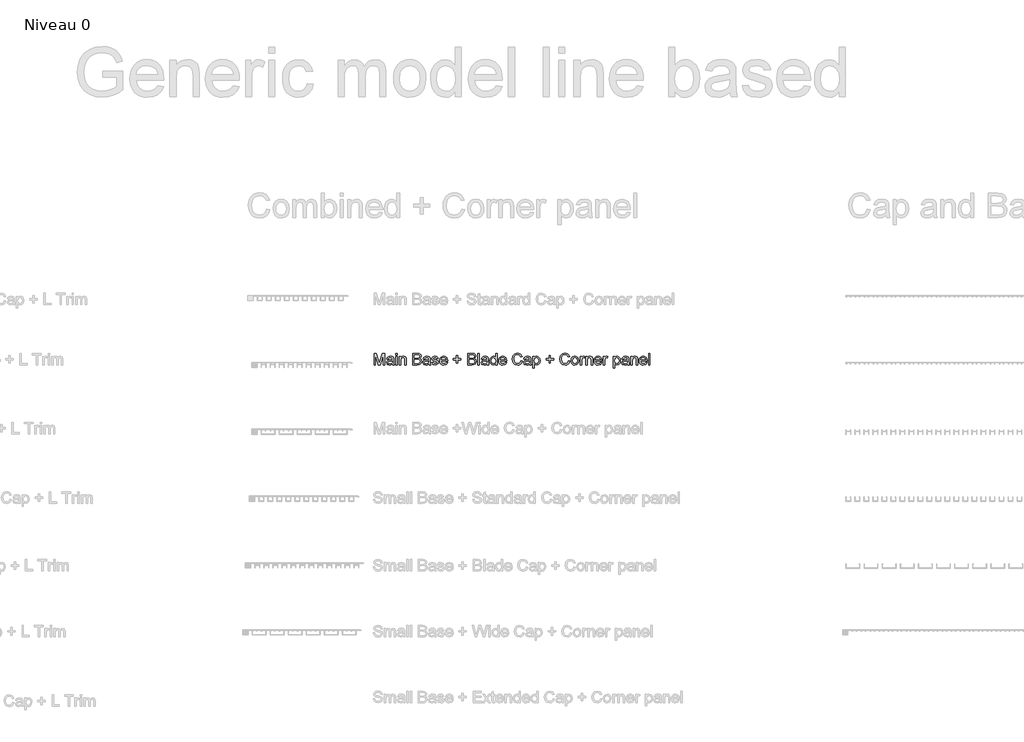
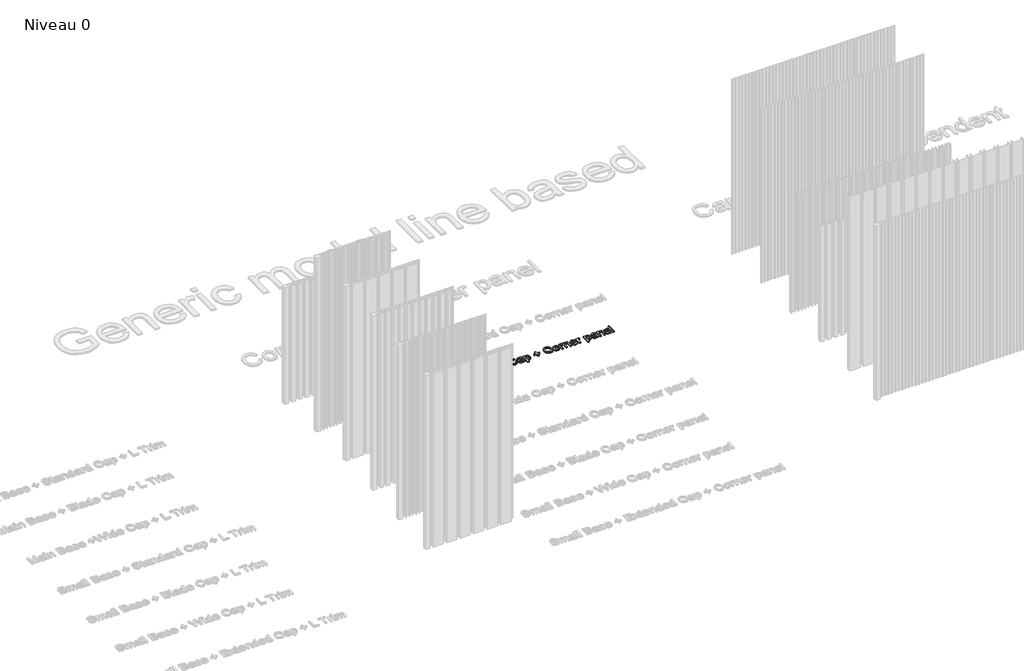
# One storey, part 19 of 25: 1 proxy.
"""IFC4 building model written with IfcOpenShell, lengths in millimetres."""

from ifc_helpers import new_model, si_unit, origin, origin_with_axes, place, context, project, spatial, polyline, outline, extrude, element, save

model = new_model("IFC4")

# Units and contexts
model_context = context("Model", 3, world=origin())
ifc_project = project(units=[si_unit("LENGTHUNIT", "METRE", prefix="MILLI")], contexts=[model_context])

# Site, building, storey
site = spatial("IfcSite", under=ifc_project)
building = spatial("IfcBuilding", under=site)
storey = spatial("IfcBuildingStorey", under=building, Name="Niveau 0", Elevation=0.0)

# Proxy
placement = place(None, origin())
element("IfcBuildingElementProxy", 1, Name="70mm Arial", ObjectType="70mm Arial", at=placement, inside=storey, context=model_context, shape_type="SweptSolid", body=[
    extrude(outline(polyline([(3886.1765083, 4146.6240116), (3886.1765083, 4216.9434287), (3901.3013634, 4216.9434287), (3915.688002, 4167.3799137), (3918.5893646, 4157.0277144), (3921.7310769, 4168.2383051), (3935.8773659, 4216.9434287), (3951.0022209, 4216.9434287), (3951.0022209, 4146.6240116), (3942.2122938, 4146.6240116), (3942.2122938, 4208.1535015), (3924.5466004, 4146.6240116), (3912.6321289, 4146.6240116), (3894.9664354, 4208.1535015), (3894.9664354, 4146.6240116), (3886.1765083, 4146.6240116)])), origin_with_axes(), (0.0, 0.0, 1.0), 10.0),
    extrude(outline(polyline([(3998.2480793, 4153.2164569), (3989.7242535, 4147.2592211), (3980.3077007, 4145.5252707), (3967.5434217, 4149.6970525), (3963.0883708, 4160.3582727), (3964.7708178, 4167.3112424), (3969.1915331, 4172.3585834), (3975.3461988, 4175.2427782), (3982.951546, 4176.5647009), (3998.1965758, 4179.5862383), (3998.2480793, 4181.5433705), (3995.8274158, 4188.0328089), (3986.110426, 4190.5736473), (3977.2174919, 4188.8826164), (3972.9770388, 4182.882461), (3964.1871117, 4183.9812019), (3967.9897852, 4192.5651151), (3975.6466358, 4197.5952883), (3987.2435026, 4199.3635744), (3997.8961389, 4197.8013022), (4003.913462, 4193.8784538), (4006.6088108, 4187.9126342), (4007.0380065, 4180.2214479), (4007.0380065, 4169.2855425), (4007.4843699, 4154.0147608), (4009.2354882, 4146.6240116), (4000.4455611, 4146.6240116), (3998.2480793, 4153.2164569)]), holes=[polyline([(3998.2480793, 4170.7963112), (3984.0674547, 4168.1009624), (3976.5050271, 4166.6760328), (3973.0800458, 4164.3583763), (3971.8782979, 4160.9763145), (3974.4963914, 4156.2208265), (3982.1789938, 4154.3151978), (3991.0719279, 4156.4182566), (3996.8059819, 4161.5085171), (3998.1965758, 4168.3069764), (3998.2480793, 4170.7963112)])]), origin_with_axes(), (0.0, 0.0, 1.0), 10.0),
    extrude(outline(polyline([(4019.1241563, 4146.6240116), (4019.1241563, 4198.2648335), (4027.9140834, 4198.2648335), (4027.9140834, 4146.6240116), (4019.1241563, 4146.6240116)])), origin_with_axes(), (0.0, 0.0, 1.0), 10.0),
    extrude(outline(polyline([(4019.1241563, 4208.1535015), (4019.1241563, 4216.9434287), (4027.9140834, 4216.9434287), (4027.9140834, 4208.1535015), (4019.1241563, 4208.1535015)])), origin_with_axes(), (0.0, 0.0, 1.0), 10.0),
    extrude(outline(polyline([(4041.0989741, 4146.6240116), (4041.0989741, 4198.2648335), (4049.8889013, 4198.2648335), (4049.8889013, 4191.0543464), (4056.6101053, 4197.2862674), (4065.7863085, 4199.3635744), (4074.0869526, 4197.6897113), (4079.7523353, 4193.2947477), (4082.3875967, 4186.8310611), (4082.851128, 4178.332987), (4082.851128, 4146.6240116), (4074.0612009, 4146.6240116), (4074.0612009, 4177.148407), (4073.0482991, 4184.9254324), (4069.4688073, 4189.0371268), (4063.4343163, 4190.5736473), (4053.8975887, 4187.1229141), (4049.8889013, 4174.0238626), (4049.8889013, 4146.6240116), (4041.0989741, 4146.6240116)])), origin_with_axes(), (0.0, 0.0, 1.0), 10.0),
    extrude(outline(polyline([(4123.504541, 4146.6240116), (4123.504541, 4216.9434287), (4150.3378538, 4216.9434287), (4163.4798249, 4214.8747056), (4171.2396825, 4208.5140259), (4174.0466221, 4199.5180848), (4171.6860459, 4191.3032799), (4164.5528141, 4185.0799428), (4173.2139825, 4178.5218331), (4176.2441039, 4167.5859277), (4174.1753808, 4158.1350392), (4169.0507846, 4151.4052512), (4161.4025179, 4147.8343433), (4150.1318398, 4146.6240116), (4123.504541, 4146.6240116)]), holes=[polyline([(4132.2944682, 4188.3761655), (4148.3463859, 4188.3761655), (4157.7200191, 4189.1315498), (4163.3596501, 4192.3848529), (4165.2566949, 4198.1103231), (4163.4884088, 4203.8443771), (4158.4239, 4207.2350228), (4147.1274702, 4208.1535015), (4132.2944682, 4208.1535015), (4132.2944682, 4188.3761655)]), polyline([(4132.2944682, 4155.4139387), (4150.3206859, 4155.4139387), (4156.84446, 4155.7572952), (4162.3639162, 4157.6715079), (4166.0206632, 4161.5771884), (4167.4541767, 4167.5000885), (4165.7717297, 4174.3328834), (4160.3209448, 4178.4102422), (4149.4622946, 4179.5862383), (4132.2944682, 4179.5862383), (4132.2944682, 4155.4139387)])]), origin_with_axes(), (0.0, 0.0, 1.0), 10.0),
    extrude(outline(polyline([(4220.1937396, 4153.2164569), (4211.6699137, 4147.2592211), (4202.2533609, 4145.5252707), (4189.489082, 4149.6970525), (4185.034031, 4160.3582727), (4186.716478, 4167.3112424), (4191.1371933, 4172.3585834), (4197.2918591, 4175.2427782), (4204.8972062, 4176.5647009), (4220.1422361, 4179.5862383), (4220.1937396, 4181.5433705), (4217.773076, 4188.0328089), (4208.0560863, 4190.5736473), (4199.1631522, 4188.8826164), (4194.922699, 4182.882461), (4186.1327719, 4183.9812019), (4189.9354454, 4192.5651151), (4197.592296, 4197.5952883), (4209.1891628, 4199.3635744), (4219.8417991, 4197.8013022), (4225.8591223, 4193.8784538), (4228.554471, 4187.9126342), (4228.9836667, 4180.2214479), (4228.9836667, 4169.2855425), (4229.4300302, 4154.0147608), (4231.1811485, 4146.6240116), (4222.3912213, 4146.6240116), (4220.1937396, 4153.2164569)]), holes=[polyline([(4220.1937396, 4170.7963112), (4206.0131149, 4168.1009624), (4198.4506874, 4166.6760328), (4195.025706, 4164.3583763), (4193.8239581, 4160.9763145), (4196.4420517, 4156.2208265), (4204.124654, 4154.3151978), (4213.0175881, 4156.4182566), (4218.7516421, 4161.5085171), (4220.1422361, 4168.3069764), (4220.1937396, 4170.7963112)])]), origin_with_axes(), (0.0, 0.0, 1.0), 10.0),
    extrude(outline(polyline([(4237.7735938, 4162.0063841), (4246.563521, 4163.1051249), (4250.6322958, 4156.5813509), (4259.9544256, 4154.3151978), (4268.916031, 4156.3925048), (4271.8345615, 4161.2681675), (4268.8988632, 4165.2167676), (4259.8514186, 4167.7232703), (4246.6150244, 4172.0238108), (4240.8380508, 4177.0454), (4238.8723347, 4184.1357123), (4240.4517748, 4190.6852381), (4244.7608992, 4195.6896595), (4250.3490267, 4198.2905852), (4257.9114542, 4199.3635744), (4268.6070101, 4197.6382078), (4275.4054694, 4192.968559), (4278.4270068, 4185.0799428), (4269.6370797, 4183.9812019), (4266.3322731, 4188.8311129), (4258.5981673, 4190.5736473), (4250.1859323, 4188.9083681), (4247.6622619, 4185.0284393), (4248.7094993, 4182.4704332), (4251.9885541, 4180.5304688), (4259.5595656, 4178.6591757), (4272.4611872, 4174.5217295), (4278.4527586, 4169.8349129), (4280.6244886, 4162.1952301), (4278.0750664, 4153.7829952), (4270.7186528, 4147.6798329), (4259.8342508, 4145.5252707), (4244.5033818, 4149.6798847), (4237.7735938, 4162.0063841)])), origin_with_axes(), (0.0, 0.0, 1.0), 10.0),
    extrude(outline(polyline([(4326.6685991, 4162.0063841), (4335.286848, 4160.9076432), (4327.2265535, 4149.5597099), (4312.2132893, 4145.5252707), (4301.8997175, 4147.2656591), (4293.9638898, 4152.4868243), (4288.9036729, 4160.8497018), (4287.216934, 4172.0152269), (4288.9208408, 4183.5562982), (4294.0325611, 4192.1874229), (4301.8610899, 4197.5695365), (4311.7154223, 4199.3635744), (4321.2628798, 4197.5738285), (4328.8918327, 4192.2045908), (4333.8941081, 4183.5906339), (4335.5615332, 4172.0667304), (4335.5100298, 4169.6975703), (4296.0068611, 4169.6975703), (4301.062786, 4158.2809657), (4312.3849675, 4154.3151978), (4321.0032164, 4156.1521552), (4326.6685991, 4162.0063841)]), holes=[polyline([(4296.0068611, 4178.4874974), (4326.7716061, 4178.4874974), (4323.2522017, 4186.4533689), (4311.6810867, 4190.5736473), (4300.8567721, 4187.2860085), (4296.0068611, 4178.4874974)])]), origin_with_axes(), (0.0, 0.0, 1.0), 10.0),
    extrude(outline(polyline([(4389.399837, 4157.6114205), (4389.399837, 4176.2900157), (4370.7212418, 4176.2900157), (4370.7212418, 4185.0799428), (4389.399837, 4185.0799428), (4389.399837, 4203.758538), (4398.1897641, 4203.758538), (4398.1897641, 4185.0799428), (4416.8683593, 4185.0799428), (4416.8683593, 4176.2900157), (4398.1897641, 4176.2900157), (4398.1897641, 4157.6114205), (4389.399837, 4157.6114205)])), origin_with_axes(), (0.0, 0.0, 1.0), 10.0),
    extrude(outline(polyline([(4457.5217723, 4146.6240116), (4457.5217723, 4216.9434287), (4484.355085, 4216.9434287), (4497.4970561, 4214.8747056), (4505.2569137, 4208.5140259), (4508.0638533, 4199.5180848), (4505.7032772, 4191.3032799), (4498.5700453, 4185.0799428), (4507.2312137, 4178.5218331), (4510.2613351, 4167.5859277), (4508.192612, 4158.1350392), (4503.0680158, 4151.4052512), (4495.4197491, 4147.8343433), (4484.1490711, 4146.6240116), (4457.5217723, 4146.6240116)]), holes=[polyline([(4466.3116994, 4155.4139387), (4484.3379172, 4155.4139387), (4490.8616912, 4155.7572952), (4496.3811474, 4157.6715079), (4500.0378945, 4161.5771884), (4501.471408, 4167.5000885), (4499.788961, 4174.3328834), (4494.3381761, 4178.4102422), (4483.4795259, 4179.5862383), (4466.3116994, 4179.5862383), (4466.3116994, 4155.4139387)]), polyline([(4466.3116994, 4188.3761655), (4482.3636171, 4188.3761655), (4491.7372504, 4189.1315498), (4497.3768814, 4192.3848529), (4499.2739262, 4198.1103231), (4497.5056401, 4203.8443771), (4492.4411313, 4207.2350228), (4481.1447015, 4208.1535015), (4466.3116994, 4208.1535015), (4466.3116994, 4188.3761655)])]), origin_with_axes(), (0.0, 0.0, 1.0), 10.0),
    extrude(outline(polyline([(4521.248744, 4146.6240116), (4521.248744, 4216.9434287), (4530.0386712, 4216.9434287), (4530.0386712, 4146.6240116), (4521.248744, 4146.6240116)])), origin_with_axes(), (0.0, 0.0, 1.0), 10.0),
    extrude(outline(polyline([(4576.1857886, 4153.2164569), (4567.6619628, 4147.2592211), (4558.24541, 4145.5252707), (4545.4811311, 4149.6970525), (4541.0260801, 4160.3582727), (4542.7085271, 4167.3112424), (4547.1292424, 4172.3585834), (4553.2839082, 4175.2427782), (4560.8892553, 4176.5647009), (4576.1342852, 4179.5862383), (4576.1857886, 4181.5433705), (4573.7651251, 4188.0328089), (4564.0481354, 4190.5736473), (4555.1552013, 4188.8826164), (4550.9147481, 4182.882461), (4542.124821, 4183.9812019), (4545.9274945, 4192.5651151), (4553.5843451, 4197.5952883), (4565.1812119, 4199.3635744), (4575.8338482, 4197.8013022), (4581.8511714, 4193.8784538), (4584.5465201, 4187.9126342), (4584.9757158, 4180.2214479), (4584.9757158, 4169.2855425), (4585.4220793, 4154.0147608), (4587.1731976, 4146.6240116), (4578.3832704, 4146.6240116), (4576.1857886, 4153.2164569)]), holes=[polyline([(4576.1857886, 4170.7963112), (4562.005164, 4168.1009624), (4554.4427365, 4166.6760328), (4551.0177551, 4164.3583763), (4549.8160072, 4160.9763145), (4552.4341008, 4156.2208265), (4560.1167031, 4154.3151978), (4569.0096372, 4156.4182566), (4574.7436912, 4161.5085171), (4576.1342852, 4168.3069764), (4576.1857886, 4170.7963112)])]), origin_with_axes(), (0.0, 0.0, 1.0), 10.0),
    extrude(outline(polyline([(4628.9253515, 4146.6240116), (4628.9253515, 4154.9160717), (4623.1097503, 4147.8729709), (4615.0709155, 4145.5252707), (4604.1865136, 4148.9245003), (4596.4953273, 4158.4097244), (4593.7656429, 4172.3929191), (4596.2807295, 4186.3846976), (4603.8174053, 4196.0158482), (4615.0365799, 4199.3635744), (4623.139794, 4196.9686626), (4628.9253515, 4190.7453255), (4628.9253515, 4216.9434287), (4637.7152786, 4216.9434287), (4637.7152786, 4146.6240116), (4628.9253515, 4146.6240116)]), holes=[polyline([(4602.5555701, 4172.4272547), (4606.521338, 4158.8217523), (4615.8778034, 4154.3151978), (4625.1226779, 4158.6157383), (4628.9253515, 4171.7577095), (4625.0540066, 4186.0241732), (4615.517279, 4190.5736473), (4606.2638206, 4186.2044354), (4602.5555701, 4172.4272547)])]), origin_with_axes(), (0.0, 0.0, 1.0), 10.0),
    extrude(outline(polyline([(4687.0556118, 4162.0063841), (4695.6738607, 4160.9076432), (4687.6135662, 4149.5597099), (4672.6003019, 4145.5252707), (4662.2867302, 4147.2656591), (4654.3509024, 4152.4868243), (4649.2906856, 4160.8497018), (4647.6039466, 4172.0152269), (4649.3078534, 4183.5562982), (4654.4195737, 4192.1874229), (4662.2481026, 4197.5695365), (4672.102435, 4199.3635744), (4681.6498925, 4197.5738285), (4689.2788453, 4192.2045908), (4694.2811208, 4183.5906339), (4695.9485459, 4172.0667304), (4695.8970424, 4169.6975703), (4656.3938738, 4169.6975703), (4661.4497987, 4158.2809657), (4672.7719802, 4154.3151978), (4681.3902291, 4156.1521552), (4687.0556118, 4162.0063841)]), holes=[polyline([(4656.3938738, 4178.4874974), (4687.1586188, 4178.4874974), (4683.6392143, 4186.4533689), (4672.0680993, 4190.5736473), (4661.2437847, 4187.2860085), (4656.3938738, 4178.4874974)])]), origin_with_axes(), (0.0, 0.0, 1.0), 10.0),
    extrude(outline(polyline([(4782.7490764, 4171.6203669), (4791.5390035, 4169.3542138), (4787.4831045, 4159.1114593), (4781.1181329, 4151.628433), (4772.7574014, 4147.0510612), (4762.7142229, 4145.5252707), (4744.4219039, 4150.143416), (4733.6920123, 4163.5171528), (4730.0095136, 4182.3159227), (4734.1727115, 4201.4237136), (4746.0099278, 4213.8103003), (4762.903069, 4218.0421696), (4780.508675, 4212.5656329), (4790.4402626, 4197.1489248), (4781.6503355, 4195.05445), (4774.4398484, 4205.8615967), (4762.5597125, 4209.2522424), (4748.8082835, 4205.4924884), (4741.039842, 4195.3978065), (4738.7994407, 4182.3330906), (4741.4518699, 4167.1910676), (4749.7095944, 4157.5169974), (4761.8386638, 4154.3151978), (4775.2896558, 4158.6758257), (4782.7490764, 4171.6203669)])), origin_with_axes(), (0.0, 0.0, 1.0), 10.0),
    extrude(outline(polyline([(4835.4886392, 4153.2164569), (4826.9648134, 4147.2592211), (4817.5482606, 4145.5252707), (4804.7839816, 4149.6970525), (4800.3289307, 4160.3582727), (4802.0113777, 4167.3112424), (4806.432093, 4172.3585834), (4812.5867587, 4175.2427782), (4820.1921059, 4176.5647009), (4835.4371357, 4179.5862383), (4835.4886392, 4181.5433705), (4833.0679757, 4188.0328089), (4823.3509859, 4190.5736473), (4814.4580518, 4188.8826164), (4810.2175987, 4182.882461), (4801.4276716, 4183.9812019), (4805.2303451, 4192.5651151), (4812.8871957, 4197.5952883), (4824.4840625, 4199.3635744), (4835.1366988, 4197.8013022), (4841.1540219, 4193.8784538), (4843.8493707, 4187.9126342), (4844.2785664, 4180.2214479), (4844.2785664, 4169.2855425), (4844.7249298, 4154.0147608), (4846.4760481, 4146.6240116), (4837.686121, 4146.6240116), (4835.4886392, 4153.2164569)]), holes=[polyline([(4835.4886392, 4170.7963112), (4821.3080146, 4168.1009624), (4813.745587, 4166.6760328), (4810.3206057, 4164.3583763), (4809.1188578, 4160.9763145), (4811.7369513, 4156.2208265), (4819.4195537, 4154.3151978), (4828.3124878, 4156.4182566), (4834.0465418, 4161.5085171), (4835.4371357, 4168.3069764), (4835.4886392, 4170.7963112)])]), origin_with_axes(), (0.0, 0.0, 1.0), 10.0),
    extrude(outline(polyline([(4856.3647162, 4126.8466755), (4856.3647162, 4198.2648335), (4865.1546433, 4198.2648335), (4865.1546433, 4189.6465846), (4871.2320539, 4196.934327), (4879.4382749, 4199.3635744), (4890.5801943, 4195.9643448), (4897.8593527, 4186.3846976), (4900.3143519, 4172.8392825), (4897.5417479, 4158.5985705), (4889.4900373, 4148.8987486), (4878.3738697, 4145.5252707), (4870.725603, 4147.7828399), (4865.1546433, 4153.4911421), (4865.1546433, 4126.8466755), (4856.3647162, 4126.8466755)]), holes=[polyline([(4865.1546433, 4172.0323947), (4868.9573169, 4158.6414901), (4878.1850236, 4154.3151978), (4887.6015764, 4158.7960005), (4891.5244247, 4172.6847721), (4887.6959994, 4186.1100124), (4878.5455479, 4190.5736473), (4869.2148343, 4185.8267432), (4865.1546433, 4172.0323947)])]), origin_with_axes(), (0.0, 0.0, 1.0), 10.0),
    extrude(outline(polyline([(4955.2513965, 4157.6114205), (4955.2513965, 4176.2900157), (4936.5728013, 4176.2900157), (4936.5728013, 4185.0799428), (4955.2513965, 4185.0799428), (4955.2513965, 4203.758538), (4964.0413236, 4203.758538), (4964.0413236, 4185.0799428), (4982.7199188, 4185.0799428), (4982.7199188, 4176.2900157), (4964.0413236, 4176.2900157), (4964.0413236, 4157.6114205), (4955.2513965, 4157.6114205)])), origin_with_axes(), (0.0, 0.0, 1.0), 10.0),
    extrude(outline(polyline([(5072.8166719, 4171.6203669), (5081.6065991, 4169.3542138), (5077.5507001, 4159.1114593), (5071.1857284, 4151.628433), (5062.824997, 4147.0510612), (5052.7818185, 4145.5252707), (5034.4894994, 4150.143416), (5023.7596079, 4163.5171528), (5020.0771091, 4182.3159227), (5024.240307, 4201.4237136), (5036.0775234, 4213.8103003), (5052.9706646, 4218.0421696), (5070.5762706, 4212.5656329), (5080.5078582, 4197.1489248), (5071.7179311, 4195.05445), (5064.5074439, 4205.8615967), (5052.6273081, 4209.2522424), (5038.8758791, 4205.4924884), (5031.1074376, 4195.3978065), (5028.8670363, 4182.3330906), (5031.5194654, 4167.1910676), (5039.77719, 4157.5169974), (5051.9062593, 4154.3151978), (5065.3572514, 4158.6758257), (5072.8166719, 4171.6203669)])), origin_with_axes(), (0.0, 0.0, 1.0), 10.0),
    extrude(outline(polyline([(5090.3965262, 4172.4444225), (5092.297863, 4184.8953887), (5098.0018733, 4193.6466882), (5113.4872528, 4199.3635744), (5122.7213974, 4197.623186), (5130.0971249, 4192.4020208), (5134.932014, 4184.1121066), (5136.5436437, 4173.1654712), (5133.6937845, 4157.5255814), (5125.3931404, 4148.6755668), (5113.4872528, 4145.5252707), (5104.1415173, 4147.2592211), (5096.7743737, 4152.4610726), (5091.9909881, 4160.924811), (5090.3965262, 4172.4444225)]), holes=[polyline([(5099.1864534, 4172.4615904), (5103.2552282, 4158.8389201), (5113.4872528, 4154.3151978), (5123.6849417, 4158.8646718), (5127.7537166, 4172.7362756), (5123.65919, 4186.049925), (5113.4872528, 4190.5736473), (5103.2552282, 4186.0670928), (5099.1864534, 4172.4615904)])]), origin_with_axes(), (0.0, 0.0, 1.0), 10.0),
    extrude(outline(polyline([(5146.4323117, 4146.6240116), (5146.4323117, 4198.2648335), (5154.123498, 4198.2648335), (5154.123498, 4190.6251507), (5159.5828668, 4197.6639596), (5165.0765712, 4199.3635744), (5173.900834, 4196.6510578), (5170.9651357, 4188.7710255), (5164.7847182, 4190.5736473), (5159.8146324, 4188.8396968), (5156.6471685, 4184.0327054), (5155.2222389, 4173.7663452), (5155.2222389, 4146.6240116), (5146.4323117, 4146.6240116)])), origin_with_axes(), (0.0, 0.0, 1.0), 10.0),
    extrude(outline(polyline([(5179.3945385, 4146.6240116), (5179.3945385, 4198.2648335), (5188.1844656, 4198.2648335), (5188.1844656, 4191.0543464), (5194.9056697, 4197.2862674), (5204.0818729, 4199.3635744), (5212.382517, 4197.6897113), (5218.0478997, 4193.2947477), (5220.6831611, 4186.8310611), (5221.1466924, 4178.332987), (5221.1466924, 4146.6240116), (5212.3567653, 4146.6240116), (5212.3567653, 4177.148407), (5211.3438635, 4184.9254324), (5207.7643717, 4189.0371268), (5201.7298807, 4190.5736473), (5192.1931531, 4187.1229141), (5188.1844656, 4174.0238626), (5188.1844656, 4146.6240116), (5179.3945385, 4146.6240116)])), origin_with_axes(), (0.0, 0.0, 1.0), 10.0),
    extrude(outline(polyline([(5269.3882847, 4162.0063841), (5278.0065336, 4160.9076432), (5269.9462391, 4149.5597099), (5254.9329748, 4145.5252707), (5244.6194031, 4147.2656591), (5236.6835753, 4152.4868243), (5231.6233585, 4160.8497018), (5229.9366195, 4172.0152269), (5231.6405263, 4183.5562982), (5236.7522466, 4192.1874229), (5244.5807755, 4197.5695365), (5254.4351079, 4199.3635744), (5263.9825654, 4197.5738285), (5271.6115182, 4192.2045908), (5276.6137937, 4183.5906339), (5278.2812188, 4172.0667304), (5278.2297153, 4169.6975703), (5238.7265467, 4169.6975703), (5243.7824716, 4158.2809657), (5255.1046531, 4154.3151978), (5263.722902, 4156.1521552), (5269.3882847, 4162.0063841)]), holes=[polyline([(5238.7265467, 4178.4874974), (5269.4912917, 4178.4874974), (5265.9718872, 4186.4533689), (5254.4007722, 4190.5736473), (5243.5764576, 4187.2860085), (5238.7265467, 4178.4874974)])]), origin_with_axes(), (0.0, 0.0, 1.0), 10.0),
    extrude(outline(polyline([(5287.0711459, 4146.6240116), (5287.0711459, 4198.2648335), (5294.7623322, 4198.2648335), (5294.7623322, 4190.6251507), (5300.221701, 4197.6639596), (5305.7154055, 4199.3635744), (5314.5396682, 4196.6510578), (5311.6039699, 4188.7710255), (5305.4235524, 4190.5736473), (5300.4534666, 4188.8396968), (5297.2860027, 4184.0327054), (5295.8610731, 4173.7663452), (5295.8610731, 4146.6240116), (5287.0711459, 4146.6240116)])), origin_with_axes(), (0.0, 0.0, 1.0), 10.0),
    extrude(outline(polyline([(5347.501895, 4126.8466755), (5347.501895, 4198.2648335), (5356.2918221, 4198.2648335), (5356.2918221, 4189.6465846), (5362.3692327, 4196.934327), (5370.5754537, 4199.3635744), (5381.7173731, 4195.9643448), (5388.9965315, 4186.3846976), (5391.4515307, 4172.8392825), (5388.6789267, 4158.5985705), (5380.6272161, 4148.8987486), (5369.5110485, 4145.5252707), (5361.8627818, 4147.7828399), (5356.2918221, 4153.4911421), (5356.2918221, 4126.8466755), (5347.501895, 4126.8466755)]), holes=[polyline([(5356.2918221, 4172.0323947), (5360.0944957, 4158.6414901), (5369.3222024, 4154.3151978), (5378.7387552, 4158.7960005), (5382.6616036, 4172.6847721), (5378.8331783, 4186.1100124), (5369.6827268, 4190.5736473), (5360.3520131, 4185.8267432), (5356.2918221, 4172.0323947)])]), origin_with_axes(), (0.0, 0.0, 1.0), 10.0),
    extrude(outline(polyline([(5434.3024255, 4153.2164569), (5425.7785997, 4147.2592211), (5416.3620469, 4145.5252707), (5403.5977679, 4149.6970525), (5399.1427169, 4160.3582727), (5400.8251639, 4167.3112424), (5405.2458792, 4172.3585834), (5411.400545, 4175.2427782), (5419.0058921, 4176.5647009), (5434.250922, 4179.5862383), (5434.3024255, 4181.5433705), (5431.881762, 4188.0328089), (5422.1647722, 4190.5736473), (5413.2718381, 4188.8826164), (5409.031385, 4182.882461), (5400.2414578, 4183.9812019), (5404.0441314, 4192.5651151), (5411.700982, 4197.5952883), (5423.2978488, 4199.3635744), (5433.9504851, 4197.8013022), (5439.9678082, 4193.8784538), (5442.663157, 4187.9126342), (5443.0923526, 4180.2214479), (5443.0923526, 4169.2855425), (5443.5387161, 4154.0147608), (5445.2898344, 4146.6240116), (5436.4999073, 4146.6240116), (5434.3024255, 4153.2164569)]), holes=[polyline([(5434.3024255, 4170.7963112), (5420.1218009, 4168.1009624), (5412.5593733, 4166.6760328), (5409.1343919, 4164.3583763), (5407.9326441, 4160.9763145), (5410.5507376, 4156.2208265), (5418.23334, 4154.3151978), (5427.126274, 4156.4182566), (5432.8603281, 4161.5085171), (5434.250922, 4168.3069764), (5434.3024255, 4170.7963112)])]), origin_with_axes(), (0.0, 0.0, 1.0), 10.0),
    extrude(outline(polyline([(5455.1785025, 4146.6240116), (5455.1785025, 4198.2648335), (5463.9684296, 4198.2648335), (5463.9684296, 4191.0543464), (5470.6896336, 4197.2862674), (5479.8658369, 4199.3635744), (5488.166481, 4197.6897113), (5493.8318637, 4193.2947477), (5496.467125, 4186.8310611), (5496.9306564, 4178.332987), (5496.9306564, 4146.6240116), (5488.1407292, 4146.6240116), (5488.1407292, 4177.148407), (5487.1278275, 4184.9254324), (5483.5483356, 4189.0371268), (5477.5138447, 4190.5736473), (5467.9771171, 4187.1229141), (5463.9684296, 4174.0238626), (5463.9684296, 4146.6240116), (5455.1785025, 4146.6240116)])), origin_with_axes(), (0.0, 0.0, 1.0), 10.0),
    extrude(outline(polyline([(5545.1722487, 4162.0063841), (5553.7904975, 4160.9076432), (5545.730203, 4149.5597099), (5530.7169388, 4145.5252707), (5520.4033671, 4147.2656591), (5512.4675393, 4152.4868243), (5507.4073224, 4160.8497018), (5505.7205835, 4172.0152269), (5507.4244903, 4183.5562982), (5512.5362106, 4192.1874229), (5520.3647395, 4197.5695365), (5530.2190718, 4199.3635744), (5539.7665293, 4197.5738285), (5547.3954822, 4192.2045908), (5552.3977576, 4183.5906339), (5554.0651828, 4172.0667304), (5554.0136793, 4169.6975703), (5514.5105106, 4169.6975703), (5519.5664355, 4158.2809657), (5530.8886171, 4154.3151978), (5539.5068659, 4156.1521552), (5545.1722487, 4162.0063841)]), holes=[polyline([(5514.5105106, 4178.4874974), (5545.2752556, 4178.4874974), (5541.7558512, 4186.4533689), (5530.1847362, 4190.5736473), (5519.3604216, 4187.2860085), (5514.5105106, 4178.4874974)])]), origin_with_axes(), (0.0, 0.0, 1.0), 10.0),
    extrude(outline(polyline([(5562.8551099, 4146.6240116), (5562.8551099, 4216.9434287), (5571.645037, 4216.9434287), (5571.645037, 4146.6240116), (5562.8551099, 4146.6240116)])), origin_with_axes(), (0.0, 0.0, 1.0), 10.0),
])

save(model, "model.ifc")
